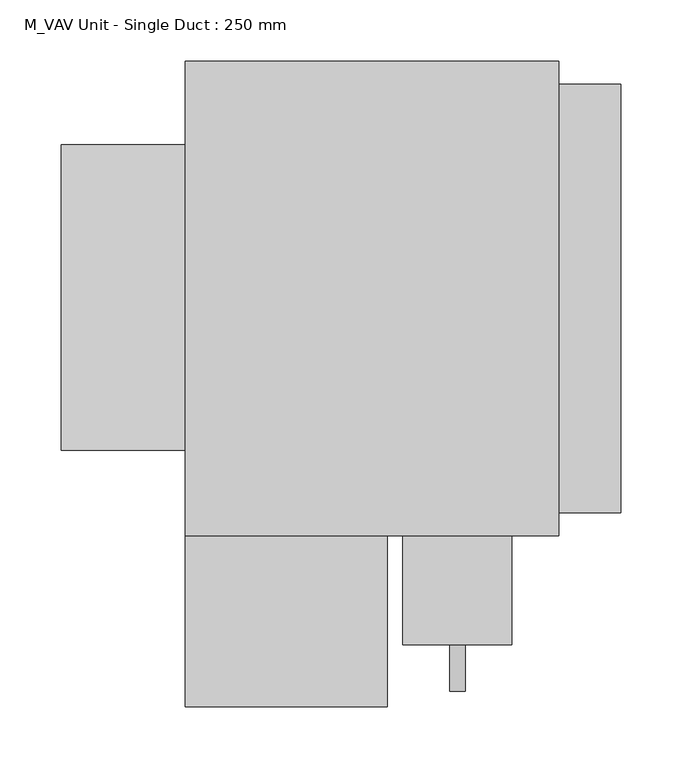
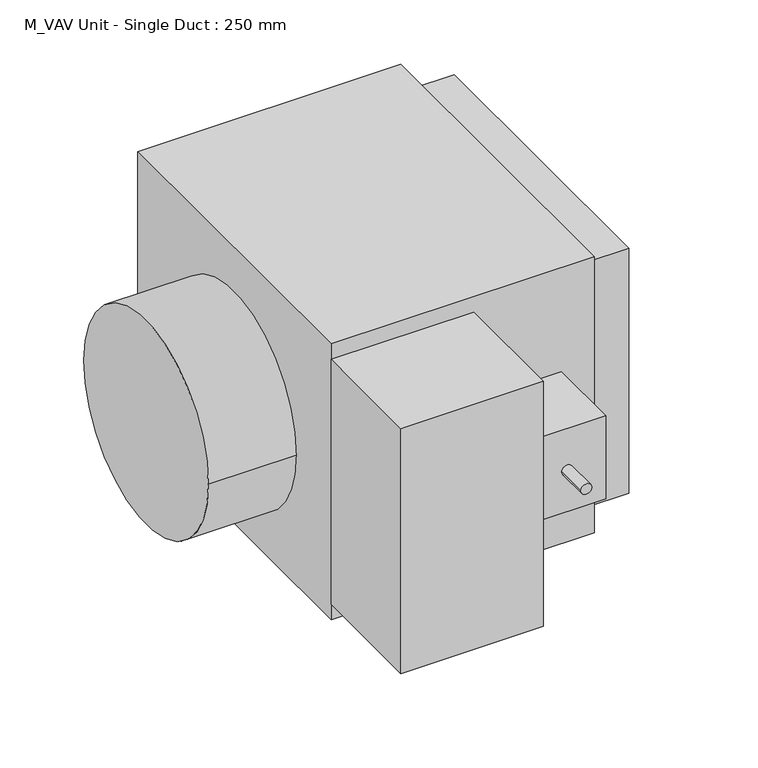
"""IFC4 building model written with IfcOpenShell, lengths in millimetres: proxy geometry, M_VAV Unit - Single Duct : 250 mm."""

from ifc_helpers import new_model, si_unit, frame, origin, origin_with_axes, place, context, project, spatial, polyline, circle_curve, outline, extrude, faceted_brep, source, transform, mapped, element, save
from ifc_brep_helpers import plane_surface, cylinder_surface, advanced_brep


def m_vav_unit_single_duct_250_mm_b14a1009(model_context):
    return source(origin(), model_context, "Body", "SolidModel", [
        advanced_brep(
        [(266.7, -282.95, 210.325), (177.8, -282.95, 210.325), (177.8, -282.95, 108.725), (266.7, -282.95, 108.725), (228.6, -282.95, 159.525), (215.9, -282.95, 159.525), (266.7, -194.05, 210.325), (266.7, -194.05, 108.725), (177.8, -194.05, 108.725), (177.8, -194.05, 210.325), (215.9, -321.05, 159.525), (228.6, -321.05, 159.525)],
        [
            (0, 1),
            (1, 2),
            (2, 3),
            (3, 0),
            (4, 5, circle_curve(frame((222.25, -282.95, 159.525), z_axis=(0.0, 1.0, 0.0), x_axis=(1.0, 0.0, 0.0)), 6.35)),
            (5, 4, circle_curve(frame((222.25, -282.95, 159.525), z_axis=(0.0, 1.0, 0.0), x_axis=(1.0, 0.0, 0.0)), 6.35)),
            (6, 7),
            (7, 8),
            (8, 9),
            (9, 6),
            (0, 6),
            (9, 1),
            (8, 2),
            (7, 3),
            (10, 11, circle_curve(frame((222.25, -321.05, 159.525), z_axis=(0.0, -1.0, 0.0), x_axis=(1.0, 0.0, 0.0)), 6.35)),
            (11, 10, circle_curve(frame((222.25, -321.05, 159.525), z_axis=(0.0, -1.0, 0.0), x_axis=(1.0, 0.0, 0.0)), 6.35)),
            (10, 5),
            (4, 11),
        ],
        [
            plane_surface(frame((177.8, -282.95, 210.325), z_axis=(0.0, -1.0, 0.0), x_axis=(-1.0, 0.0, 0.0))),
            plane_surface(frame((177.8, -194.05, 210.325), z_axis=(0.0, 1.0, 0.0), x_axis=(1.0, 0.0, 0.0))),
            plane_surface(frame((266.7, -282.95, 210.325), z_axis=(0.0, 0.0, 1.0), x_axis=(0.0, 1.0, 0.0))),
            plane_surface(frame((177.8, -282.95, 210.325), z_axis=(-1.0, 0.0, 0.0), x_axis=(0.0, 1.0, 0.0))),
            plane_surface(frame((177.8, -282.95, 108.725), z_axis=(0.0, 0.0, -1.0), x_axis=(0.0, 1.0, 0.0))),
            plane_surface(frame((266.7, -282.95, 108.725), z_axis=(1.0, 0.0, 0.0), x_axis=(0.0, 1.0, 0.0))),
            plane_surface(frame((228.6, -321.05, 159.525), z_axis=(0.0, -1.0, 0.0), x_axis=(0.0, 0.0, 1.0))),
            cylinder_surface(frame((222.25, -194.05, 159.525), z_axis=(0.0, -1.0, 0.0), x_axis=(1.0, 0.0, 0.0)), 6.35),
        ],
        [
            (0, [[1, 2, 3, 4], [5, 6]]),
            (1, [[7, 8, 9, 10]]),
            (2, [[-1, 11, -10, 12]]),
            (3, [[-2, -12, -9, 13]]),
            (4, [[-3, -13, -8, 14]]),
            (5, [[-4, -14, -7, -11]]),
            (6, [[15, 16]]),
            (7, [[-15, 17, -5, 18]]),
            (7, [[-16, -18, -6, -17]]),
        ],
    ),
        faceted_brep([(355.8, 175.0, 319.05), (355.8, -175.0, 319.05), (355.8, -175.0, 19.05), (355.8, 175.0, 19.05), (305.0, 175.0, 319.05), (305.0, 175.0, 19.05), (305.0, -175.0, 19.05), (305.0, -175.0, 319.05)], [[[0, 1, 2, 3]], [[4, 5, 6, 7]], [[1, 0, 4, 7]], [[2, 1, 7, 6]], [[3, 2, 6, 5]], [[0, 3, 5, 4]]]),
        advanced_brep(
        [(0.0, -124.15, 159.525), (0.0, 125.85, 159.525), (-101.6, -124.15, 159.525), (-101.6, 125.85, 159.525)],
        [
            (0, 1, circle_curve(frame((0.0, 0.85, 159.525), z_axis=(1.0, 0.0, 0.0), x_axis=(0.0, 1.0, 0.0)), 125.0)),
            (1, 0, circle_curve(frame((0.0, 0.85, 159.525), z_axis=(1.0, 0.0, 0.0), x_axis=(0.0, 1.0, 0.0)), 125.0)),
            (2, 3, circle_curve(frame((-101.6, 0.85, 159.525), z_axis=(-1.0, 0.0, 0.0), x_axis=(0.0, 1.0, 0.0)), 125.0)),
            (3, 2, circle_curve(frame((-101.6, 0.85, 159.525), z_axis=(-1.0, 0.0, 0.0), x_axis=(0.0, 1.0, 0.0)), 125.0)),
            (0, 2),
            (3, 1),
        ],
        [
            plane_surface(frame((0.0, 125.85, 159.525), z_axis=(1.0, 0.0, 0.0), x_axis=(0.0, 0.0, 1.0))),
            plane_surface(frame((-101.6, 125.85, 159.525), z_axis=(-1.0, 0.0, 0.0), x_axis=(0.0, 0.0, -1.0))),
            cylinder_surface(frame((-101.6, 0.85, 159.525), z_axis=(1.0, 0.0, 0.0), x_axis=(0.0, 1.0, 0.0)), 125.0),
        ],
        [
            (0, [[1, 2]]),
            (1, [[3, 4]]),
            (2, [[-1, 5, -4, 6]]),
            (2, [[-2, -6, -3, -5]]),
        ],
    ),
        extrude(outline(polyline([(165.1, -333.75), (0.0, -333.75), (0.0, -194.05), (165.1, -194.05), (165.1, -333.75)])), frame((0.0, 0.0, 19.05), z_axis=(0.0, 0.0, 1.0), x_axis=(1.0, 0.0, 0.0)), (0.0, 0.0, 1.0), 300.0),
        extrude(outline(polyline([(305.0, 194.05), (305.0, -194.05), (0.0, -194.05), (0.0, 194.05), (305.0, 194.05)])), origin_with_axes(), (0.0, 0.0, 1.0), 338.1),
    ])


if __name__ == "__main__":
    model = new_model("IFC4")
    model_context = context("Model", 3, world=origin())
    ifc_project = project(units=[si_unit("LENGTHUNIT", "METRE", prefix="MILLI")], contexts=[model_context])
    site = spatial("IfcSite", under=ifc_project)
    building = spatial("IfcBuilding", under=site)
    placement = place(None, origin())
    m_vav_unit_single_duct_250_mm_shape = m_vav_unit_single_duct_250_mm_b14a1009(model_context)
    element("IfcBuildingElementProxy", 1, Name="M_VAV Unit - Single Duct : 250 mm", ObjectType="M_VAV Unit - Single Duct : 250 mm", at=placement, inside=building, context=model_context, shape_type="MappedRepresentation", body=[
        mapped(m_vav_unit_single_duct_250_mm_shape, transform((0.0, 0.0, 0.0), x_axis=(1.0, 0.0, 0.0), y_axis=(0.0, 1.0, 0.0), z_axis=(0.0, 0.0, 1.0))),
    ])
    save(model, "model.ifc")
